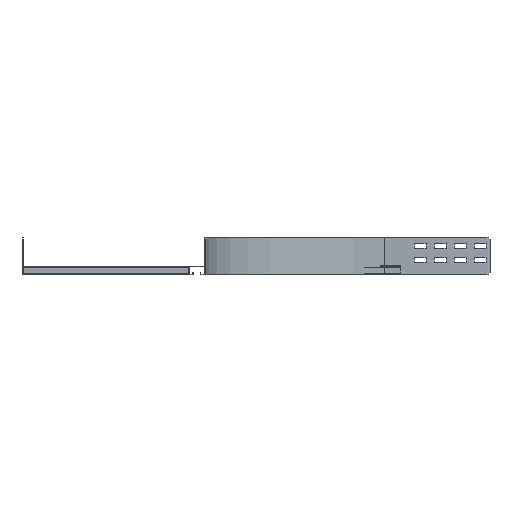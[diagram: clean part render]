
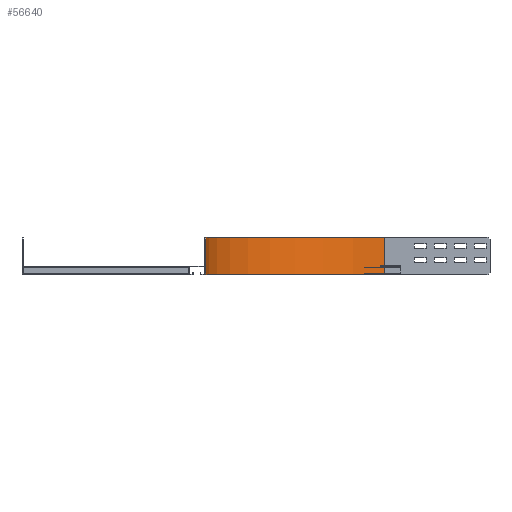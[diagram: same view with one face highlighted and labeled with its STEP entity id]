
A CAD part, left-side view. The second image highlights one B-rep face of the part: STEP entity #56640.
In plain terms, the highlighted cylindrical face has radius 447 mm (diameter 894 mm), a partial arc.
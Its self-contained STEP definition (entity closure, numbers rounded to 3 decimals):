
#34690=CARTESIAN_POINT('',(447.,-450.,-50.));
#34700=VERTEX_POINT('',#34690);
#34730=CARTESIAN_POINT('',(0.,-450.,-50.));
#34740=DIRECTION('',(0.,0.,1.));
#34750=DIRECTION('',(1.,0.,0.));
#34760=AXIS2_PLACEMENT_3D('',#34730,#34740,#34750);
#34770=CIRCLE('',#34760,447.);
#34780=CARTESIAN_POINT('',(0.,-3.,-50.));
#34790=VERTEX_POINT('',#34780);
#34800=EDGE_CURVE('',#34700,#34790,#34770,.T.);
#38200=CARTESIAN_POINT('',(0.,-3.,-145.));
#38210=VERTEX_POINT('',#38200);
#38240=CARTESIAN_POINT('',(0.,-450.,-145.));
#38250=DIRECTION('',(0.,0.,1.));
#38260=DIRECTION('',(1.,0.,0.));
#38270=AXIS2_PLACEMENT_3D('',#38240,#38250,#38260);
#38280=CIRCLE('',#38270,447.);
#38290=CARTESIAN_POINT('',(447.,-450.,-145.));
#38300=VERTEX_POINT('',#38290);
#38310=EDGE_CURVE('',#38300,#38210,#38280,.T.);
#42320=CARTESIAN_POINT('',(447.,-450.,0.));
#42330=DIRECTION('',(0.,0.,1.));
#42340=VECTOR('',#42330,1.);
#42350=LINE('',#42320,#42340);
#42360=EDGE_CURVE('',#38300,#34700,#42350,.T.);
#48020=CARTESIAN_POINT('',(0.,-3.,0.));
#48030=DIRECTION('',(0.,0.,1.));
#48040=VECTOR('',#48030,1.);
#48050=LINE('',#48020,#48040);
#48060=EDGE_CURVE('',#38210,#34790,#48050,.T.);
#56530=CARTESIAN_POINT('',(0.,-450.,0.));
#56540=DIRECTION('',(0.,0.,1.));
#56550=DIRECTION('',(1.,0.,0.));
#56560=AXIS2_PLACEMENT_3D('',#56530,#56540,#56550);
#56570=CYLINDRICAL_SURFACE('',#56560,447.);
#56580=ORIENTED_EDGE('',*,*,#34800,.T.);
#56590=ORIENTED_EDGE('',*,*,#42360,.T.);
#56600=ORIENTED_EDGE('',*,*,#38310,.F.);
#56610=ORIENTED_EDGE('',*,*,#48060,.F.);
#56620=EDGE_LOOP('',(#56610,#56600,#56590,#56580));
#56630=FACE_OUTER_BOUND('',#56620,.T.);
#56640=ADVANCED_FACE('',(#56630),#56570,.F.);
